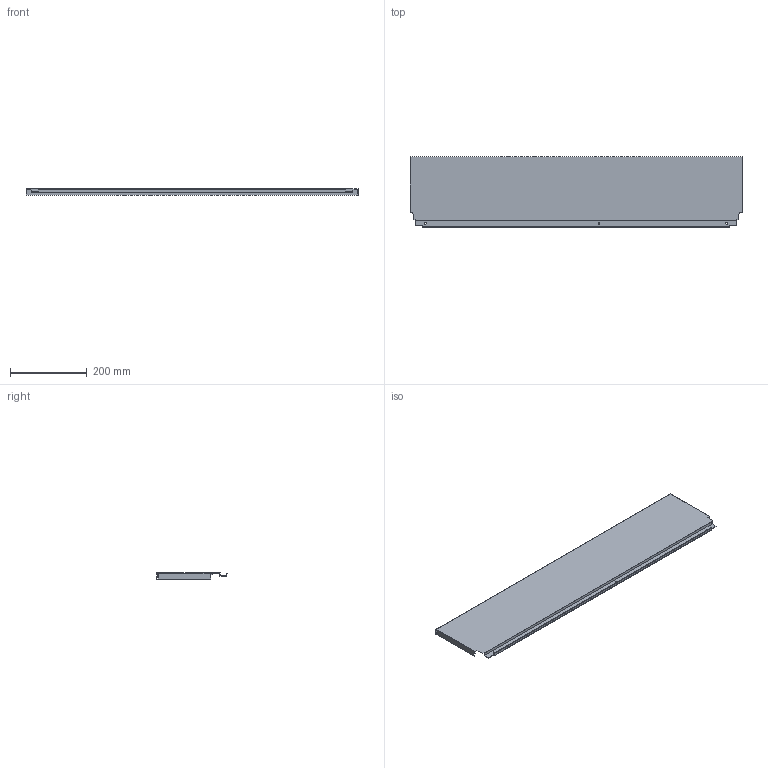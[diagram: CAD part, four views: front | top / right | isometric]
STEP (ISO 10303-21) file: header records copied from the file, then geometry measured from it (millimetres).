
FILE_DESCRIPTION (( 'STEP AP214' ), '1' );
FILE_NAME ('_DWD_XP Stahlrückwand_H182_KAB950_S18.step', '2010-07-08T12:58:00', ( 'grass' ), ( '' ), 'SwSTEP 2.0', 'SolidWorks 2010', '' );
FILE_SCHEMA (( 'AUTOMOTIVE_DESIGN' ));
Length unit declared in the file: millimetre
Products named in the file (1): _DWD_XP Stahlrückwand_H182_KAB950_S18
Bounding box: 863 x 182.49 x 16 mm (x, y, z)
Volume: 161821.7 mm3; surface area: 374089.2 mm2
Topology: 1 solids, 1 shells, 46 faces, 132 edges, 88 vertices
Faces by surface type: plane 40, cylinder 6
Entity records: 1534 total; most frequent: CARTESIAN_POINT 267, ORIENTED_EDGE 264, DIRECTION 238, EDGE_CURVE 132, LINE 120, VECTOR 120, VERTEX_POINT 88, AXIS2_PLACEMENT_3D 59
